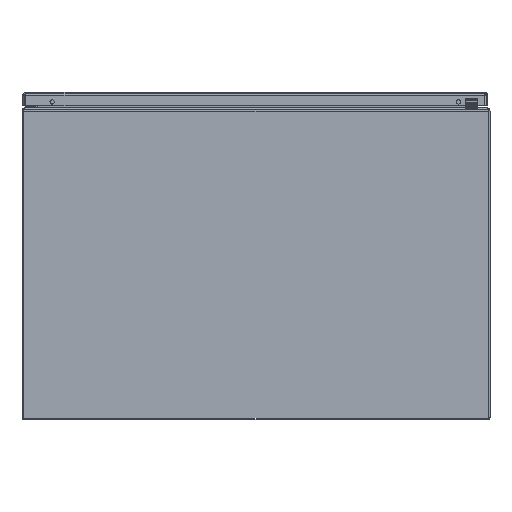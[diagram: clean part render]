
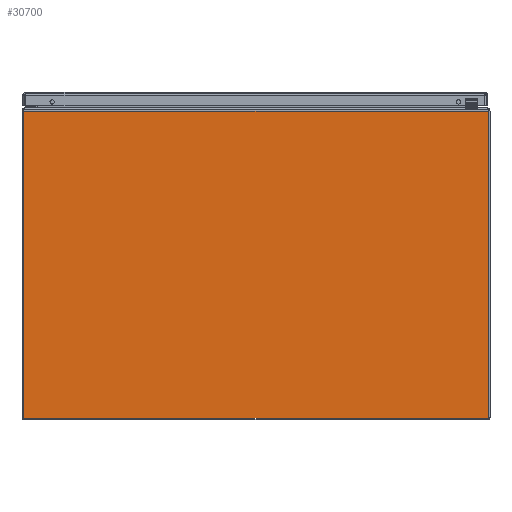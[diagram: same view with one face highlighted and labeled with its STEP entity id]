
A CAD part, front view. The second image highlights one B-rep face of the part: STEP entity #30700.
In plain terms, the highlighted planar face has unit normal (0, -1, 0).
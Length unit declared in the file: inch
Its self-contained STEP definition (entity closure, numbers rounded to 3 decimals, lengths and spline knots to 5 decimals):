
#462 = LINE ( 'NONE', #26251, #9010 ) ;
#1355 = LINE ( 'NONE', #27232, #18391 ) ;
#1602 = EDGE_CURVE ( 'NONE', #46057, #22477, #1355, .T. ) ;
#3414 = DIRECTION ( 'NONE',  ( 0., -1., 0. ) ) ;
#6913 = PLANE ( 'NONE',  #21900 ) ;
#8500 = LINE ( 'NONE', #9732, #26670 ) ;
#9010 = VECTOR ( 'NONE', #19136, 39.37008 ) ;
#9732 = CARTESIAN_POINT ( 'NONE',  ( 12., 0., 15.838 ) ) ;
#11276 = EDGE_CURVE ( 'NONE', #22477, #42194, #462, .T. ) ;
#11310 = VECTOR ( 'NONE', #19319, 39.37008 ) ;
#13078 = ORIENTED_EDGE ( 'NONE', *, *, #11276, .F. ) ;
#14052 = CARTESIAN_POINT ( 'NONE',  ( 11.921, 0., 15.838 ) ) ;
#15604 = ORIENTED_EDGE ( 'NONE', *, *, #42113, .T. ) ;
#15663 = CARTESIAN_POINT ( 'NONE',  ( -11.921, 0., 16.569 ) ) ;
#16742 = DIRECTION ( 'NONE',  ( -1., 0., 0. ) ) ;
#18391 = VECTOR ( 'NONE', #38187, 39.37008 ) ;
#18985 = EDGE_CURVE ( 'NONE', #46057, #36466, #8500, .T. ) ;
#19136 = DIRECTION ( 'NONE',  ( -1., 0., 0. ) ) ;
#19319 = DIRECTION ( 'NONE',  ( 0., 0., -1. ) ) ;
#19600 = ORIENTED_EDGE ( 'NONE', *, *, #1602, .F. ) ;
#21900 = AXIS2_PLACEMENT_3D ( 'NONE', #25179, #3414, #28837 ) ;
#22477 = VERTEX_POINT ( 'NONE', #36563 ) ;
#23885 = ORIENTED_EDGE ( 'NONE', *, *, #18985, .T. ) ;
#24649 = CARTESIAN_POINT ( 'NONE',  ( -11.921, 0., 15.838 ) ) ;
#25179 = CARTESIAN_POINT ( 'NONE',  ( 12., 0., 0.08 ) ) ;
#26251 = CARTESIAN_POINT ( 'NONE',  ( 12., 0., 0.08 ) ) ;
#26670 = VECTOR ( 'NONE', #16742, 39.37008 ) ;
#26774 = EDGE_LOOP ( 'NONE', ( #13078, #19600, #23885, #15604 ) ) ;
#27232 = CARTESIAN_POINT ( 'NONE',  ( 11.921, 0., 0.08 ) ) ;
#28837 = DIRECTION ( 'NONE',  ( 0., 0., -1. ) ) ;
#30643 = LINE ( 'NONE', #15663, #11310 ) ;
#30700 = ADVANCED_FACE ( 'NONE', ( #40736 ), #6913, .T. ) ;
#36466 = VERTEX_POINT ( 'NONE', #24649 ) ;
#36563 = CARTESIAN_POINT ( 'NONE',  ( 11.921, 0., 0.08 ) ) ;
#38187 = DIRECTION ( 'NONE',  ( 0., 0., -1. ) ) ;
#40736 = FACE_OUTER_BOUND ( 'NONE', #26774, .T. ) ;
#42113 = EDGE_CURVE ( 'NONE', #36466, #42194, #30643, .T. ) ;
#42194 = VERTEX_POINT ( 'NONE', #44965 ) ;
#44965 = CARTESIAN_POINT ( 'NONE',  ( -11.921, 0., 0.08 ) ) ;
#46057 = VERTEX_POINT ( 'NONE', #14052 ) ;
